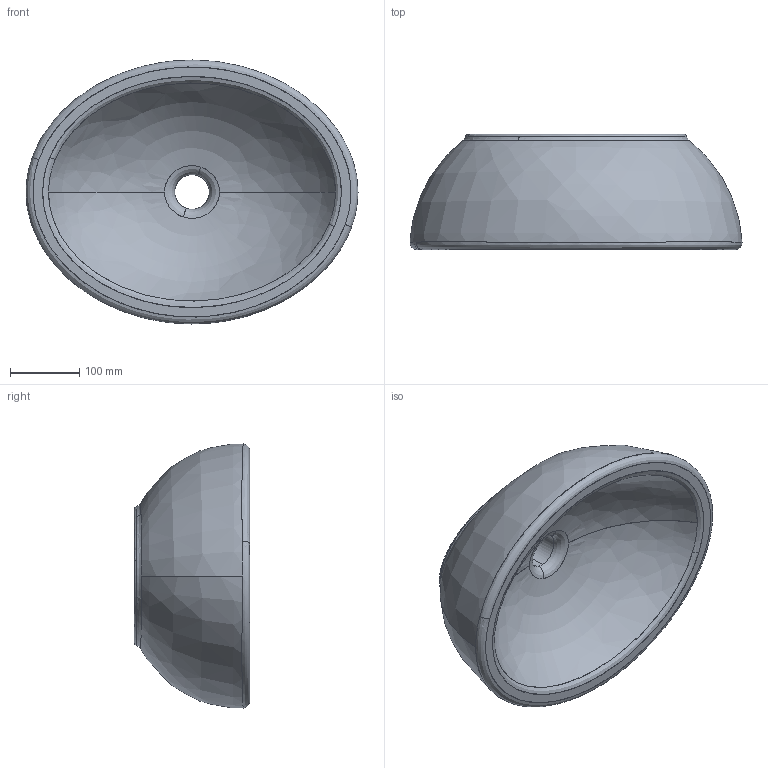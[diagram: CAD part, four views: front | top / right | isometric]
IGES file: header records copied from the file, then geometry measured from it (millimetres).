
Start section: Comment
Global section: file name: Planet ovale piccolo appoggio.igs; native system:  By UGS Corp.; preprocessor: XPlus GENERIC/IGES 3.0; author: Author; organization: Title; date: 20110617.150344; units: millimetre
Bounding box: 479.45 x 167 x 381.32 mm (x, y, z)
Surface area: 487201.7 mm2 (no closed solid volume)
Topology: 0 solids, 0 shells, 33 faces, 164 edges, 164 vertices
Faces by surface type: bspline 33
